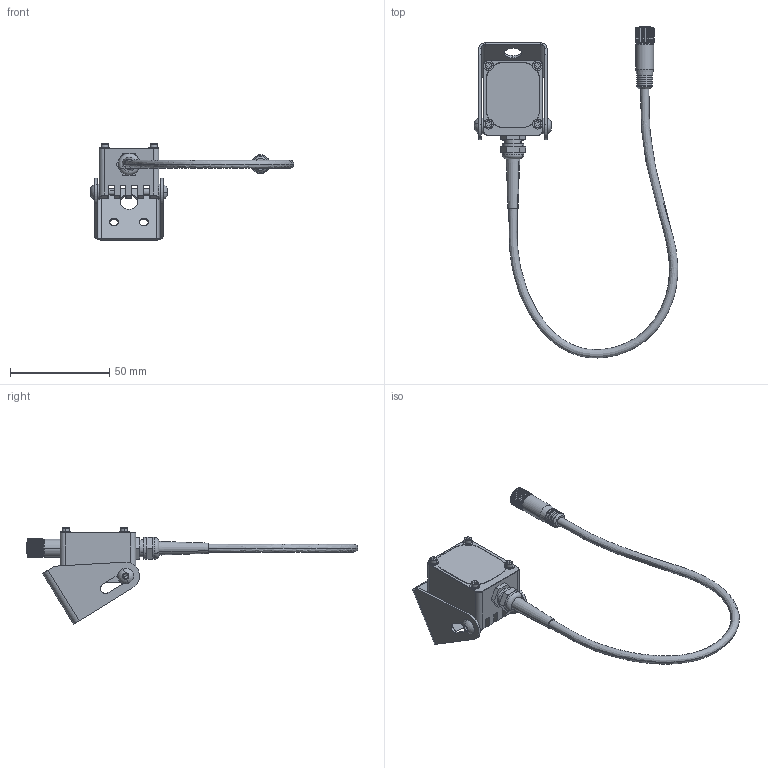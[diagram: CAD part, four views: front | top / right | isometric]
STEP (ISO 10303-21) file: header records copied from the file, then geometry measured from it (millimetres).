
FILE_DESCRIPTION (( 'STEP AP214' ), '1' );
FILE_NAME ('THINLED 4 LED.STEP', '2012-08-13T10:11:18', ( ' ' ), ( '' ), 'SwSTEP 2.0', 'SolidWorks 2009', '' );
FILE_SCHEMA (( 'AUTOMOTIVE_DESIGN' ));
Length unit declared in the file: millimetre
Products named in the file (1): THINLED 4 LED
Bounding box: 102.53 x 167.31 x 48.56 mm (x, y, z)
Volume: 25294.8 mm3; surface area: 24379.4 mm2
Topology: 17 solids, 17 shells, 556 faces, 1338 edges, 837 vertices
Faces by surface type: cylinder 235, plane 219, cone 72, torus 22, bspline 4, sphere 4
Entity records: 23700 total; most frequent: CARTESIAN_POINT 4539, DIRECTION 2776, ORIENTED_EDGE 2640, EDGE_CURVE 1320, AXIS2_PLACEMENT_3D 1041, VERTEX_POINT 837, LINE 694, VECTOR 694
